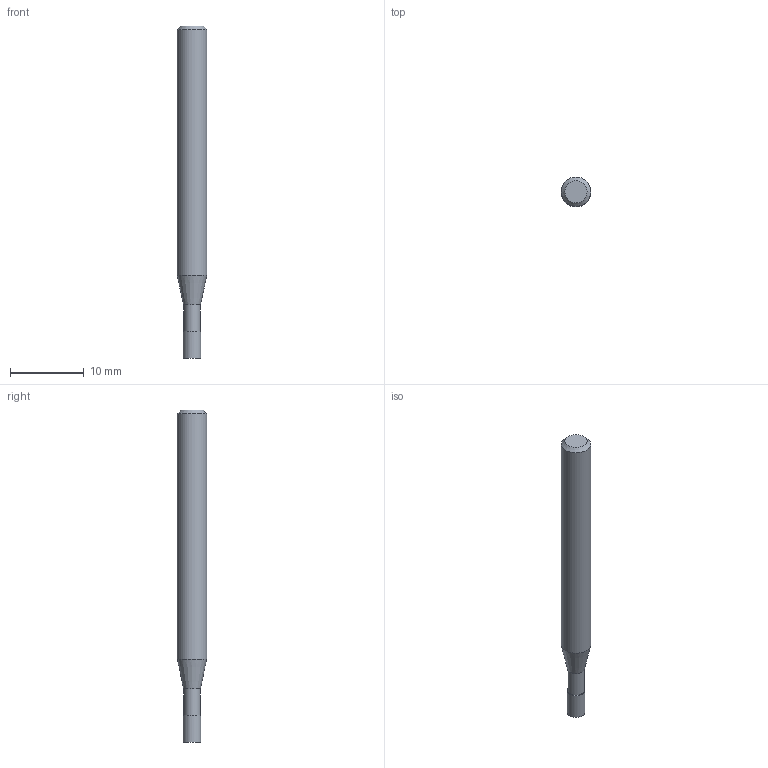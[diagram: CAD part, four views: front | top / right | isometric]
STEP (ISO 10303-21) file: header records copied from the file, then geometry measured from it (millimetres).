
FILE_DESCRIPTION((''),'2;1');
FILE_NAME('C:\Users\nsx150\AppData\Local\Temp\Mastercam 2021\EUJSUNXURU\TEMP.step','2021-04-22T10:27:50',(''),(''),'STEP Write','Mastercam 2021 ... CNC Software, Inc.','');
FILE_SCHEMA(('AUTOMOTIVE_DESIGN'));
Length unit declared in the file: millimetre
Products named in the file (1): None
Bounding box: 4 x 4 x 45 mm (x, y, z)
Volume: 486.5 mm3; surface area: 540.1 mm2
Topology: 2 solids, 2 shells, 9 faces, 12 edges, 7 vertices
Faces by surface type: plane 4, cylinder 3, cone 2
Full cylindrical faces by diameter (mm): 2.3 x1, 2.4 x1, 4 x1
Entity records: 211 total; most frequent: DIRECTION 36, CARTESIAN_POINT 25, AXIS2_PLACEMENT_3D 18, ORIENTED_EDGE 14, EDGE_LOOP 14, STYLED_ITEM 12, ADVANCED_FACE 9, FACE_BOUND 8
